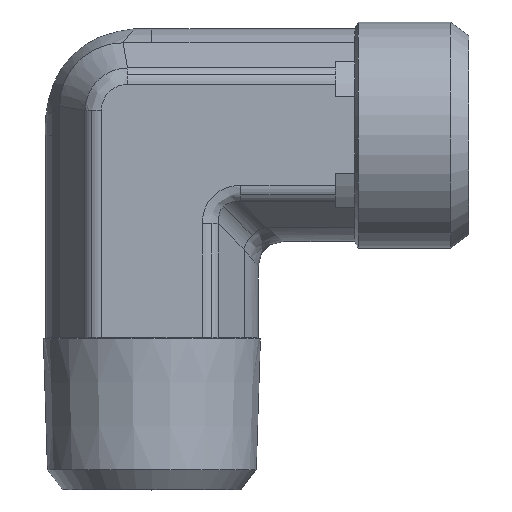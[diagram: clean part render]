
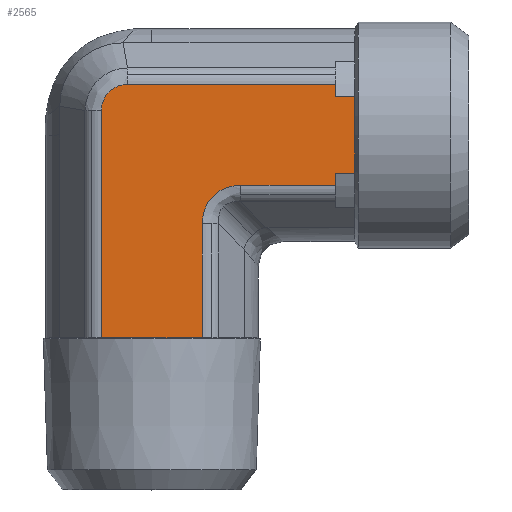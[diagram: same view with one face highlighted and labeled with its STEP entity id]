
A CAD part, top view. The second image highlights one B-rep face of the part: STEP entity #2565.
In plain terms, the highlighted planar face has unit normal (0, 0, 1) as drawn and (0, -1, 0) by its records, which use the part's own axes.
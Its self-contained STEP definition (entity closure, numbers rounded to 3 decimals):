
#361=CARTESIAN_POINT('',(2.515,-8.4,3.984));
#362=VERTEX_POINT('',#361);
#370=CARTESIAN_POINT('',(11.5,-8.4,3.984));
#371=VERTEX_POINT('',#370);
#372=CARTESIAN_POINT('',(2.515,-8.4,3.984));
#373=DIRECTION('',(1.0,0.0,0.0));
#374=VECTOR('',#373,8.985);
#375=LINE('',#372,#374);
#376=EDGE_CURVE('',#362,#371,#375,.T.);
#485=CARTESIAN_POINT('',(-8.484,-8.4,-1.926));
#486=VERTEX_POINT('',#485);
#494=CARTESIAN_POINT('',(-8.484,-8.4,14.5));
#495=VERTEX_POINT('',#494);
#496=CARTESIAN_POINT('',(-8.484,-8.4,-1.926));
#497=DIRECTION('',(0.0,0.0,1.0));
#498=VECTOR('',#497,16.426);
#499=LINE('',#496,#498);
#500=EDGE_CURVE('',#486,#495,#499,.T.);
#711=CARTESIAN_POINT('',(11.5,-8.4,0.));
#712=VERTEX_POINT('',#711);
#2003=CARTESIAN_POINT('',(-0.516,-8.4,14.5));
#2004=VERTEX_POINT('',#2003);
#2005=CARTESIAN_POINT('',(-1.484,-8.4,14.5));
#2006=VERTEX_POINT('',#2005);
#2007=CARTESIAN_POINT('',(-0.516,-8.4,14.5));
#2008=DIRECTION('',(-1.0,0.0,0.0));
#2009=VECTOR('',#2008,0.968);
#2010=LINE('',#2007,#2009);
#2011=EDGE_CURVE('',#2004,#2006,#2010,.T.);
#2062=CARTESIAN_POINT('',(-7.516,-8.4,14.5));
#2063=VERTEX_POINT('',#2062);
#2064=CARTESIAN_POINT('',(-7.516,-8.4,14.5));
#2065=DIRECTION('',(-1.0,0.0,0.0));
#2066=VECTOR('',#2065,0.968);
#2067=LINE('',#2064,#2066);
#2068=EDGE_CURVE('',#2063,#495,#2067,.T.);
#2167=CARTESIAN_POINT('',(-1.484,-8.4,16.0));
#2168=VERTEX_POINT('',#2167);
#2169=CARTESIAN_POINT('',(-1.484,-8.4,14.5));
#2170=DIRECTION('',(0.0,0.0,1.0));
#2171=VECTOR('',#2170,1.5);
#2172=LINE('',#2169,#2171);
#2173=EDGE_CURVE('',#2006,#2168,#2172,.T.);
#2208=CARTESIAN_POINT('',(-7.516,-8.4,16.0));
#2209=VERTEX_POINT('',#2208);
#2210=CARTESIAN_POINT('',(-7.516,-8.4,16.0));
#2211=DIRECTION('',(0.0,0.0,-1.0));
#2212=VECTOR('',#2211,1.5);
#2213=LINE('',#2210,#2212);
#2214=EDGE_CURVE('',#2209,#2063,#2213,.T.);
#2471=CARTESIAN_POINT('',(-4.5,-8.4,16.0));
#2472=VERTEX_POINT('',#2471);
#2473=CARTESIAN_POINT('',(-4.5,-8.4,16.0));
#2474=DIRECTION('',(-1.0,0.0,0.0));
#2475=VECTOR('',#2474,3.016);
#2476=LINE('',#2473,#2475);
#2477=EDGE_CURVE('',#2472,#2209,#2476,.T.);
#2495=CARTESIAN_POINT('',(-4.5,-8.4,-3.175));
#2496=DIRECTION('',(0.0,-1.0,0.0));
#2497=DIRECTION('',(0.0,0.0,-1.0));
#2498=AXIS2_PLACEMENT_3D('',#2495,#2496,#2497);
#2499=PLANE('',#2498);
#2500=ORIENTED_EDGE('',*,*,#2214,.T.);
#2501=ORIENTED_EDGE('',*,*,#2068,.T.);
#2502=ORIENTED_EDGE('',*,*,#500,.F.);
#2503=CARTESIAN_POINT('',(-6.426,-8.4,-3.984));
#2504=VERTEX_POINT('',#2503);
#2505=CARTESIAN_POINT('',(-8.484,-8.4,-1.926));
#2506=CARTESIAN_POINT('',(-8.484,-8.4,-2.06));
#2507=CARTESIAN_POINT('',(-8.47,-8.4,-2.195));
#2508=CARTESIAN_POINT('',(-8.402,-8.4,-2.54));
#2509=CARTESIAN_POINT('',(-8.326,-8.4,-2.743));
#2510=CARTESIAN_POINT('',(-8.051,-8.4,-3.233));
#2511=CARTESIAN_POINT('',(-7.806,-8.4,-3.49));
#2512=CARTESIAN_POINT('',(-7.186,-8.4,-3.876));
#2513=CARTESIAN_POINT('',(-6.806,-8.4,-3.984));
#2514=CARTESIAN_POINT('',(-6.426,-8.4,-3.984));
#2515=B_SPLINE_CURVE_WITH_KNOTS('',3,(#2505,#2506,#2507,#2508,#2509,#2510,#2511,#2512,#2513,#2514),.UNSPECIFIED.,.F.,.U.,(4,2,2,2,4),(-3.216,-2.814,-2.171,-1.142,0.0),.UNSPECIFIED.);
#2516=EDGE_CURVE('',#2504,#486,#2515,.F.);
#2517=ORIENTED_EDGE('',*,*,#2516,.F.);
#2518=CARTESIAN_POINT('',(11.5,-8.4,-3.984));
#2519=VERTEX_POINT('',#2518);
#2520=CARTESIAN_POINT('',(11.5,-8.4,-3.984));
#2521=DIRECTION('',(-1.0,0.0,0.0));
#2522=VECTOR('',#2521,17.926);
#2523=LINE('',#2520,#2522);
#2524=EDGE_CURVE('',#2519,#2504,#2523,.T.);
#2525=ORIENTED_EDGE('',*,*,#2524,.F.);
#2526=CARTESIAN_POINT('',(11.5,-8.4,-3.984));
#2527=DIRECTION('',(0.0,0.0,1.0));
#2528=VECTOR('',#2527,3.984);
#2529=LINE('',#2526,#2528);
#2530=EDGE_CURVE('',#2519,#712,#2529,.T.);
#2531=ORIENTED_EDGE('',*,*,#2530,.T.);
#2532=CARTESIAN_POINT('',(11.5,-8.4,0.));
#2533=DIRECTION('',(0.0,0.0,1.0));
#2534=VECTOR('',#2533,3.984);
#2535=LINE('',#2532,#2534);
#2536=EDGE_CURVE('',#712,#371,#2535,.T.);
#2537=ORIENTED_EDGE('',*,*,#2536,.T.);
#2538=ORIENTED_EDGE('',*,*,#376,.F.);
#2539=CARTESIAN_POINT('',(-0.516,-8.4,7.015));
#2540=VERTEX_POINT('',#2539);
#2541=CARTESIAN_POINT('',(3.525,-8.4,8.025));
#2542=DIRECTION('',(0.,-1.,0.));
#2543=DIRECTION('',(-0.707,0.,-0.707));
#2544=AXIS2_PLACEMENT_3D('',#2541,#2542,#2543);
#2545=ELLIPSE('',#2544,4.518,3.5);
#2546=EDGE_CURVE('',#2540,#362,#2545,.T.);
#2547=ORIENTED_EDGE('',*,*,#2546,.F.);
#2548=CARTESIAN_POINT('',(-0.516,-8.4,14.5));
#2549=DIRECTION('',(0.0,0.0,-1.0));
#2550=VECTOR('',#2549,7.485);
#2551=LINE('',#2548,#2550);
#2552=EDGE_CURVE('',#2004,#2540,#2551,.T.);
#2553=ORIENTED_EDGE('',*,*,#2552,.F.);
#2554=ORIENTED_EDGE('',*,*,#2011,.T.);
#2555=ORIENTED_EDGE('',*,*,#2173,.T.);
#2556=CARTESIAN_POINT('',(-1.484,-8.4,16.0));
#2557=DIRECTION('',(-1.0,0.0,0.0));
#2558=VECTOR('',#2557,3.016);
#2559=LINE('',#2556,#2558);
#2560=EDGE_CURVE('',#2168,#2472,#2559,.T.);
#2561=ORIENTED_EDGE('',*,*,#2560,.T.);
#2562=ORIENTED_EDGE('',*,*,#2477,.T.);
#2563=EDGE_LOOP('',(#2500,#2501,#2502,#2517,#2525,#2531,#2537,#2538,#2547,#2553,#2554,#2555,#2561,#2562));
#2564=FACE_OUTER_BOUND('',#2563,.T.);
#2565=ADVANCED_FACE('',(#2564),#2499,.T.);
